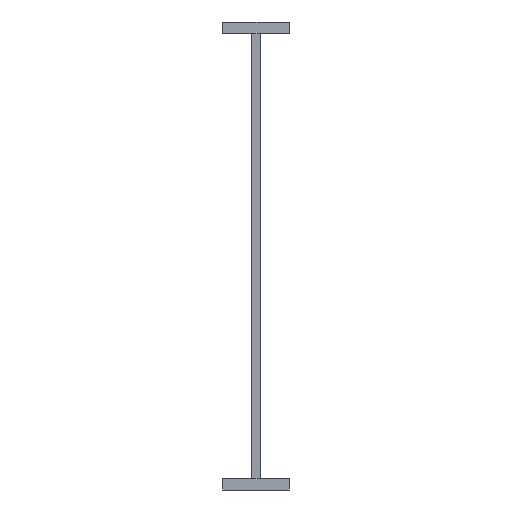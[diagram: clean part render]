
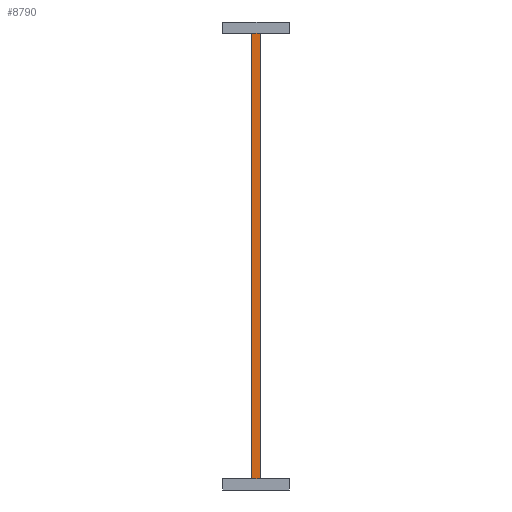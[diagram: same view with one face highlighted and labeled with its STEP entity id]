
A CAD part, left-side view. The second image highlights one B-rep face of the part: STEP entity #8790.
In plain terms, the highlighted planar face has unit normal (-1, 0, 0).
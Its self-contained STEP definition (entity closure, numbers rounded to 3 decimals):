
#4780=CARTESIAN_POINT('',(0.,4.,0.));
#4790=DIRECTION('',(0.,-1.,0.));
#4800=VECTOR('',#4790,1.);
#4810=LINE('',#4780,#4800);
#4820=CARTESIAN_POINT('',(0.,4.,0.));
#4830=VERTEX_POINT('',#4820);
#4840=CARTESIAN_POINT('',(0.,0.,0.));
#4850=VERTEX_POINT('',#4840);
#4860=EDGE_CURVE('',#4830,#4850,#4810,.T.);
#5540=CARTESIAN_POINT('',(0.,4.,200.));
#5550=VERTEX_POINT('',#5540);
#5580=CARTESIAN_POINT('',(0.,4.,0.));
#5590=DIRECTION('',(0.,0.,1.));
#5600=VECTOR('',#5590,1.);
#5610=LINE('',#5580,#5600);
#5620=EDGE_CURVE('',#4830,#5550,#5610,.T.);
#8560=CARTESIAN_POINT('',(0.,0.,0.));
#8570=DIRECTION('',(-1.,0.,0.));
#8580=DIRECTION('',(0.,1.,0.));
#8590=AXIS2_PLACEMENT_3D('',#8560,#8570,#8580);
#8600=PLANE('',#8590);
#8610=ORIENTED_EDGE('',*,*,#5620,.F.);
#8620=CARTESIAN_POINT('',(0.,0.,200.));
#8630=DIRECTION('',(0.,1.,0.));
#8640=VECTOR('',#8630,1.);
#8650=LINE('',#8620,#8640);
#8660=CARTESIAN_POINT('',(0.,0.,200.));
#8670=VERTEX_POINT('',#8660);
#8680=EDGE_CURVE('',#8670,#5550,#8650,.T.);
#8690=ORIENTED_EDGE('',*,*,#8680,.T.);
#8700=CARTESIAN_POINT('',(0.,0.,0.));
#8710=DIRECTION('',(0.,0.,1.));
#8720=VECTOR('',#8710,1.);
#8730=LINE('',#8700,#8720);
#8740=EDGE_CURVE('',#4850,#8670,#8730,.T.);
#8750=ORIENTED_EDGE('',*,*,#8740,.T.);
#8760=ORIENTED_EDGE('',*,*,#4860,.T.);
#8770=EDGE_LOOP('',(#8760,#8750,#8690,#8610));
#8780=FACE_OUTER_BOUND('',#8770,.T.);
#8790=ADVANCED_FACE('',(#8780),#8600,.T.);
